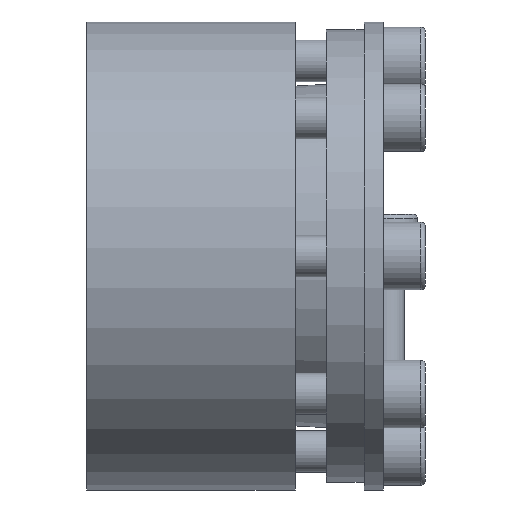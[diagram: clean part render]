
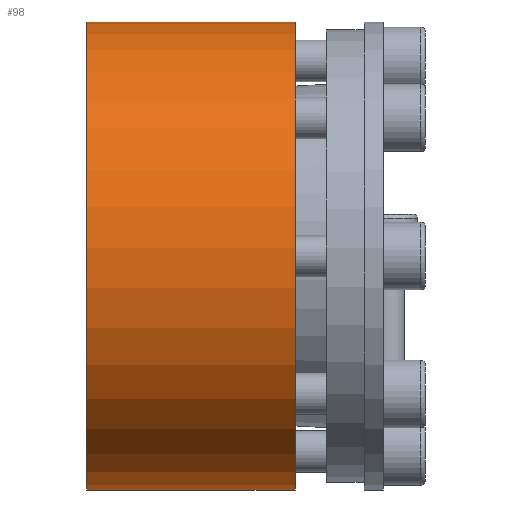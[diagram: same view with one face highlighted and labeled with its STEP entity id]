
A CAD part, left-side view. The second image highlights one B-rep face of the part: STEP entity #98.
In plain terms, the highlighted cylindrical face has radius 45 mm (diameter 90 mm), a partial arc.
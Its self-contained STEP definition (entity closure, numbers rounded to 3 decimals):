
#98 = ADVANCED_FACE( '', ( #225 ), #226, .T. );
#225 = FACE_OUTER_BOUND( '', #393, .T. );
#226 = CYLINDRICAL_SURFACE( '', #394, 45. );
#393 = EDGE_LOOP( '', ( #636, #637, #638, #639 ) );
#394 = AXIS2_PLACEMENT_3D( '', #640, #641, #642 );
#636 = ORIENTED_EDGE( '', *, *, #899, .F. );
#637 = ORIENTED_EDGE( '', *, *, #872, .T. );
#638 = ORIENTED_EDGE( '', *, *, #902, .T. );
#639 = ORIENTED_EDGE( '', *, *, #903, .T. );
#640 = CARTESIAN_POINT( '', ( 0., -60., 0. ) );
#641 = DIRECTION( '', ( 0., 1., 0. ) );
#642 = DIRECTION( '', ( 0., 0., -1. ) );
#872 = EDGE_CURVE( '', #1057, #1055, #1058, .F. );
#899 = EDGE_CURVE( '', #1057, #1102, #1103, .T. );
#902 = EDGE_CURVE( '', #1055, #1106, #1107, .T. );
#903 = EDGE_CURVE( '', #1106, #1102, #1108, .T. );
#1055 = VERTEX_POINT( '', #1365 );
#1057 = VERTEX_POINT( '', #1368 );
#1058 = LINE( '', #1369, #1370 );
#1102 = VERTEX_POINT( '', #1423 );
#1103 = CIRCLE( '', #1424, 45. );
#1106 = VERTEX_POINT( '', #1428 );
#1107 = CIRCLE( '', #1429, 45. );
#1108 = LINE( '', #1430, #1431 );
#1365 = CARTESIAN_POINT( '', ( 16.386, 57., 41.911 ) );
#1368 = CARTESIAN_POINT( '', ( 16.386, 17., 41.911 ) );
#1369 = CARTESIAN_POINT( '', ( 16.386, -60., 41.911 ) );
#1370 = VECTOR( '', #1580, 1000. );
#1423 = CARTESIAN_POINT( '', ( 18.049, 17., 41.222 ) );
#1424 = AXIS2_PLACEMENT_3D( '', #1626, #1627, #1628 );
#1428 = CARTESIAN_POINT( '', ( 18.049, 57., 41.222 ) );
#1429 = AXIS2_PLACEMENT_3D( '', #1630, #1631, #1632 );
#1430 = CARTESIAN_POINT( '', ( 18.049, -60., 41.222 ) );
#1431 = VECTOR( '', #1633, 1000. );
#1580 = DIRECTION( '', ( 0., -1., 0. ) );
#1626 = CARTESIAN_POINT( '', ( 0., 17., 0. ) );
#1627 = DIRECTION( '', ( 0., -1., 0. ) );
#1628 = DIRECTION( '', ( 0., 0., -1. ) );
#1630 = CARTESIAN_POINT( '', ( 0., 57., 0. ) );
#1631 = DIRECTION( '', ( 0., -1., 0. ) );
#1632 = DIRECTION( '', ( 0., 0., -1. ) );
#1633 = DIRECTION( '', ( 0., -1., 0. ) );
